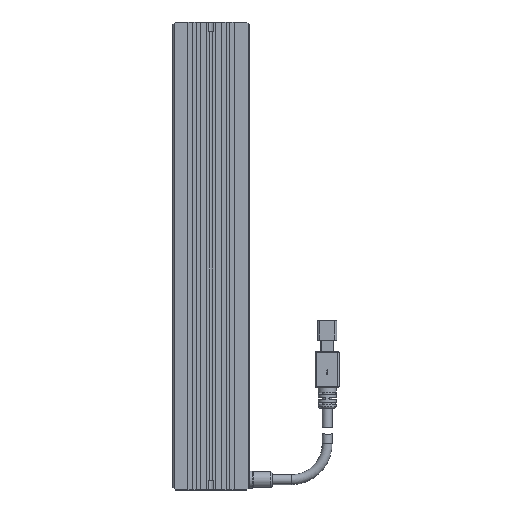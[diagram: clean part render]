
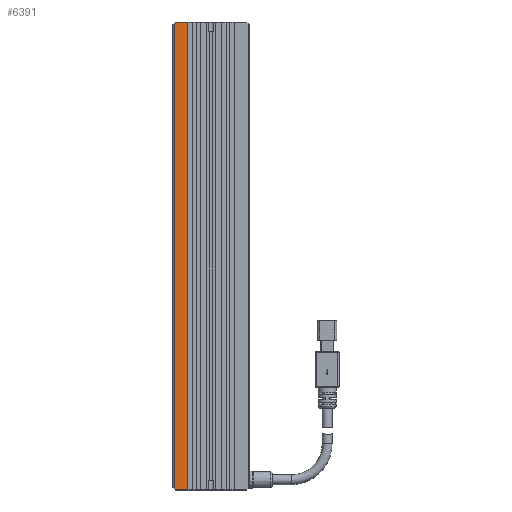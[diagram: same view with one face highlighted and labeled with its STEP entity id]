
A CAD part, top view. The second image highlights one B-rep face of the part: STEP entity #6391.
In plain terms, the highlighted planar face has unit normal (0, 0, 1).
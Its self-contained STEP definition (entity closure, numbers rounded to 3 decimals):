
#5 = LINE ( 'NONE', #9535, #17794 ) ;
#150 = AXIS2_PLACEMENT_3D ( 'NONE', #1062, #1127, #5201 ) ;
#860 = CARTESIAN_POINT ( 'NONE',  ( -15.5, 97.5, 12.5 ) ) ;
#864 = VERTEX_POINT ( 'NONE', #860 ) ;
#1062 = CARTESIAN_POINT ( 'NONE',  ( -15.5, 98., 12.5 ) ) ;
#1127 = DIRECTION ( 'NONE',  ( 0., 0., -1. ) ) ;
#1737 = VECTOR ( 'NONE', #5602, 1000. ) ;
#1770 = LINE ( 'NONE', #8644, #13875 ) ;
#1829 = DIRECTION ( 'NONE',  ( 0.707, -0.707, 0. ) ) ;
#2453 = FACE_OUTER_BOUND ( 'NONE', #17307, .T. ) ;
#3733 = LINE ( 'NONE', #17139, #11654 ) ;
#4320 = DIRECTION ( 'NONE',  ( 0., -1., 0. ) ) ;
#4445 = CARTESIAN_POINT ( 'NONE',  ( -9.7, 98., 12.5 ) ) ;
#4690 = EDGE_CURVE ( 'NONE', #5679, #12587, #16393, .T. ) ;
#4848 = VECTOR ( 'NONE', #13041, 1000. ) ;
#5201 = DIRECTION ( 'NONE',  ( -1., 0., 0. ) ) ;
#5602 = DIRECTION ( 'NONE',  ( 1., 0., 0. ) ) ;
#5679 = VERTEX_POINT ( 'NONE', #16556 ) ;
#6117 = ORIENTED_EDGE ( 'NONE', *, *, #10127, .F. ) ;
#6186 = LINE ( 'NONE', #17505, #4848 ) ;
#6383 = VERTEX_POINT ( 'NONE', #10913 ) ;
#6391 = ADVANCED_FACE ( 'NONE', ( #2453 ), #12266, .F. ) ;
#8037 = CARTESIAN_POINT ( 'NONE',  ( -9.7, -98., 12.5 ) ) ;
#8644 = CARTESIAN_POINT ( 'NONE',  ( -15.5, 98., 12.5 ) ) ;
#8675 = DIRECTION ( 'NONE',  ( -0.707, -0.707, 0. ) ) ;
#9011 = CARTESIAN_POINT ( 'NONE',  ( -16., -97., 12.5 ) ) ;
#9014 = VERTEX_POINT ( 'NONE', #8037 ) ;
#9485 = ORIENTED_EDGE ( 'NONE', *, *, #12443, .F. ) ;
#9535 = CARTESIAN_POINT ( 'NONE',  ( -9.7, 98., 12.5 ) ) ;
#9648 = LINE ( 'NONE', #11190, #1737 ) ;
#10127 = EDGE_CURVE ( 'NONE', #14449, #9014, #5, .T. ) ;
#10913 = CARTESIAN_POINT ( 'NONE',  ( -15., 98., 12.5 ) ) ;
#11014 = ORIENTED_EDGE ( 'NONE', *, *, #16403, .T. ) ;
#11190 = CARTESIAN_POINT ( 'NONE',  ( -15.5, -98., 12.5 ) ) ;
#11654 = VECTOR ( 'NONE', #8675, 1000. ) ;
#11672 = ORIENTED_EDGE ( 'NONE', *, *, #4690, .T. ) ;
#12266 = PLANE ( 'NONE',  #150 ) ;
#12289 = ORIENTED_EDGE ( 'NONE', *, *, #13542, .T. ) ;
#12443 = EDGE_CURVE ( 'NONE', #6383, #14449, #6186, .T. ) ;
#12587 = VERTEX_POINT ( 'NONE', #13099 ) ;
#13041 = DIRECTION ( 'NONE',  ( 1., 0., 0. ) ) ;
#13099 = CARTESIAN_POINT ( 'NONE',  ( -15., -98., 12.5 ) ) ;
#13542 = EDGE_CURVE ( 'NONE', #12587, #9014, #9648, .T. ) ;
#13875 = VECTOR ( 'NONE', #4320, 1000. ) ;
#13913 = DIRECTION ( 'NONE',  ( 0., -1., 0. ) ) ;
#14383 = EDGE_CURVE ( 'NONE', #864, #5679, #1770, .T. ) ;
#14449 = VERTEX_POINT ( 'NONE', #4445 ) ;
#16393 = LINE ( 'NONE', #9011, #17486 ) ;
#16403 = EDGE_CURVE ( 'NONE', #6383, #864, #3733, .T. ) ;
#16556 = CARTESIAN_POINT ( 'NONE',  ( -15.5, -97.5, 12.5 ) ) ;
#17139 = CARTESIAN_POINT ( 'NONE',  ( -15., 98., 12.5 ) ) ;
#17307 = EDGE_LOOP ( 'NONE', ( #9485, #11014, #17669, #11672, #12289, #6117 ) ) ;
#17486 = VECTOR ( 'NONE', #1829, 1000. ) ;
#17505 = CARTESIAN_POINT ( 'NONE',  ( -15.5, 98., 12.5 ) ) ;
#17669 = ORIENTED_EDGE ( 'NONE', *, *, #14383, .T. ) ;
#17794 = VECTOR ( 'NONE', #13913, 1000. ) ;
